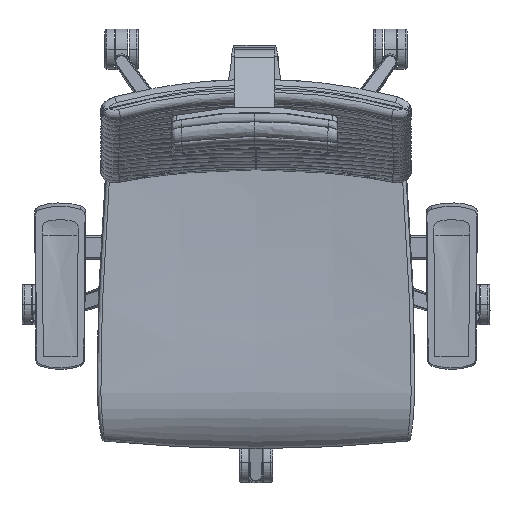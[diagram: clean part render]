
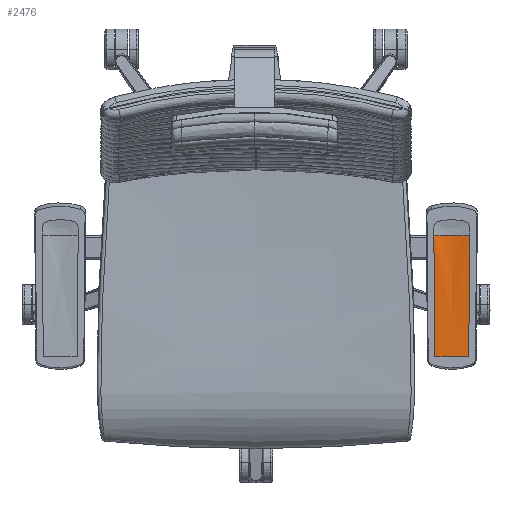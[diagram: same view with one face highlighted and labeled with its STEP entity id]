
A CAD part, top view. The second image highlights one B-rep face of the part: STEP entity #2476.
In plain terms, the highlighted free-form (B-spline) face has degree [3, 2] with [4, 3] control points.
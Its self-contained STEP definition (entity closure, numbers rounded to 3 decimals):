
#1450=B_SPLINE_CURVE_WITH_KNOTS('',1,(#50886,#50887),.UNSPECIFIED.,.F.,
 .F.,(2,2),(0.,50.276),.UNSPECIFIED.);
#2476=ADVANCED_FACE('',(#3279),#11544,.T.);
#3279=FACE_OUTER_BOUND('',#4082,.T.);
#4082=EDGE_LOOP('',(#6592,#6593,#6594,#6595,#6596));
#6592=ORIENTED_EDGE('',*,*,#9026,.T.);
#6593=ORIENTED_EDGE('',*,*,#9024,.T.);
#6594=ORIENTED_EDGE('',*,*,#9025,.T.);
#6595=ORIENTED_EDGE('',*,*,#9027,.T.);
#6596=ORIENTED_EDGE('',*,*,#9043,.T.);
#9024=EDGE_CURVE('',#10859,#10860,#9948,.T.);
#9025=EDGE_CURVE('',#10860,#10858,#9949,.T.);
#9026=EDGE_CURVE('',#10861,#10859,#9950,.T.);
#9027=EDGE_CURVE('',#10858,#10862,#9951,.T.);
#9043=EDGE_CURVE('',#10862,#10861,#1450,.T.);
#9948=(
BOUNDED_CURVE()
B_SPLINE_CURVE(2,(#50811,#50812,#50813),.UNSPECIFIED.,.F.,.F.)
B_SPLINE_CURVE_WITH_KNOTS((3,3),(0.,26.864),.UNSPECIFIED.)
CURVE()
GEOMETRIC_REPRESENTATION_ITEM()
RATIONAL_B_SPLINE_CURVE((1.,0.994,1.))
REPRESENTATION_ITEM('')
);
#9949=(
BOUNDED_CURVE()
B_SPLINE_CURVE(2,(#50814,#50815,#50816),.UNSPECIFIED.,.F.,.F.)
B_SPLINE_CURVE_WITH_KNOTS((3,3),(-26.864,0.),.UNSPECIFIED.)
CURVE()
GEOMETRIC_REPRESENTATION_ITEM()
RATIONAL_B_SPLINE_CURVE((1.,0.994,1.))
REPRESENTATION_ITEM('')
);
#9950=(
BOUNDED_CURVE()
B_SPLINE_CURVE(3,(#50817,#50818,#50819,#50820),.UNSPECIFIED.,.F.,.F.)
B_SPLINE_CURVE_WITH_KNOTS((4,4),(0.,180.167),.UNSPECIFIED.)
CURVE()
GEOMETRIC_REPRESENTATION_ITEM()
RATIONAL_B_SPLINE_CURVE((1.,1.,1.,1.))
REPRESENTATION_ITEM('')
);
#9951=(
BOUNDED_CURVE()
B_SPLINE_CURVE(3,(#50821,#50822,#50823,#50824),.UNSPECIFIED.,.F.,.F.)
B_SPLINE_CURVE_WITH_KNOTS((4,4),(-180.167,0.),.UNSPECIFIED.)
CURVE()
GEOMETRIC_REPRESENTATION_ITEM()
RATIONAL_B_SPLINE_CURVE((1.,1.,1.,1.))
REPRESENTATION_ITEM('')
);
#10858=VERTEX_POINT('',#50783);
#10859=VERTEX_POINT('',#50784);
#10860=VERTEX_POINT('',#50785);
#10861=VERTEX_POINT('',#50786);
#10862=VERTEX_POINT('',#50787);
#11544=(
BOUNDED_SURFACE()
B_SPLINE_SURFACE(3,2,((#50703,#50704,#50705),(#50706,#50707,#50708),(#50709,
#50710,#50711),(#50712,#50713,#50714)),.UNSPECIFIED.,.F.,.F.,.F.)
B_SPLINE_SURFACE_WITH_KNOTS((4,4),(3,3),(0.,180.167),(-53.728,
0.),.UNSPECIFIED.)
GEOMETRIC_REPRESENTATION_ITEM()
RATIONAL_B_SPLINE_SURFACE(((1.,0.975,1.),(1.,0.975,
1.),(1.,0.975,1.),(1.,0.975,1.)))
REPRESENTATION_ITEM('')
SURFACE()
);
#50703=CARTESIAN_POINT('',(315.828,-164.805,673.407));
#50704=CARTESIAN_POINT('',(290.691,-164.805,673.407));
#50705=CARTESIAN_POINT('',(265.553,-164.805,673.407));
#50706=CARTESIAN_POINT('',(316.329,-104.752,673.259));
#50707=CARTESIAN_POINT('',(290.691,-104.752,673.31));
#50708=CARTESIAN_POINT('',(265.052,-104.752,673.259));
#50709=CARTESIAN_POINT('',(316.829,-44.699,673.11));
#50710=CARTESIAN_POINT('',(290.691,-44.713,667.198));
#50711=CARTESIAN_POINT('',(264.552,-44.699,673.11));
#50712=CARTESIAN_POINT('',(317.33,15.355,672.962));
#50713=CARTESIAN_POINT('',(290.691,15.34,666.885));
#50714=CARTESIAN_POINT('',(264.051,15.355,672.962));
#50783=CARTESIAN_POINT('',(264.051,15.355,672.962));
#50784=CARTESIAN_POINT('',(317.33,15.355,672.962));
#50785=CARTESIAN_POINT('',(290.691,15.347,669.962));
#50786=CARTESIAN_POINT('',(315.828,-164.805,673.407));
#50787=CARTESIAN_POINT('',(265.553,-164.805,673.407));
#50811=CARTESIAN_POINT('',(317.33,15.355,672.962));
#50812=CARTESIAN_POINT('',(304.179,15.347,669.962));
#50813=CARTESIAN_POINT('',(290.691,15.347,669.962));
#50814=CARTESIAN_POINT('',(290.691,15.347,669.962));
#50815=CARTESIAN_POINT('',(277.202,15.347,669.962));
#50816=CARTESIAN_POINT('',(264.051,15.355,672.962));
#50817=CARTESIAN_POINT('',(315.828,-164.805,673.407));
#50818=CARTESIAN_POINT('',(316.329,-104.752,673.259));
#50819=CARTESIAN_POINT('',(316.829,-44.699,673.11));
#50820=CARTESIAN_POINT('',(317.33,15.355,672.962));
#50821=CARTESIAN_POINT('',(264.051,15.355,672.962));
#50822=CARTESIAN_POINT('',(264.552,-44.699,673.11));
#50823=CARTESIAN_POINT('',(265.052,-104.752,673.259));
#50824=CARTESIAN_POINT('',(265.553,-164.805,673.407));
#50886=CARTESIAN_POINT('',(265.553,-164.805,673.407));
#50887=CARTESIAN_POINT('',(315.828,-164.805,673.407));
